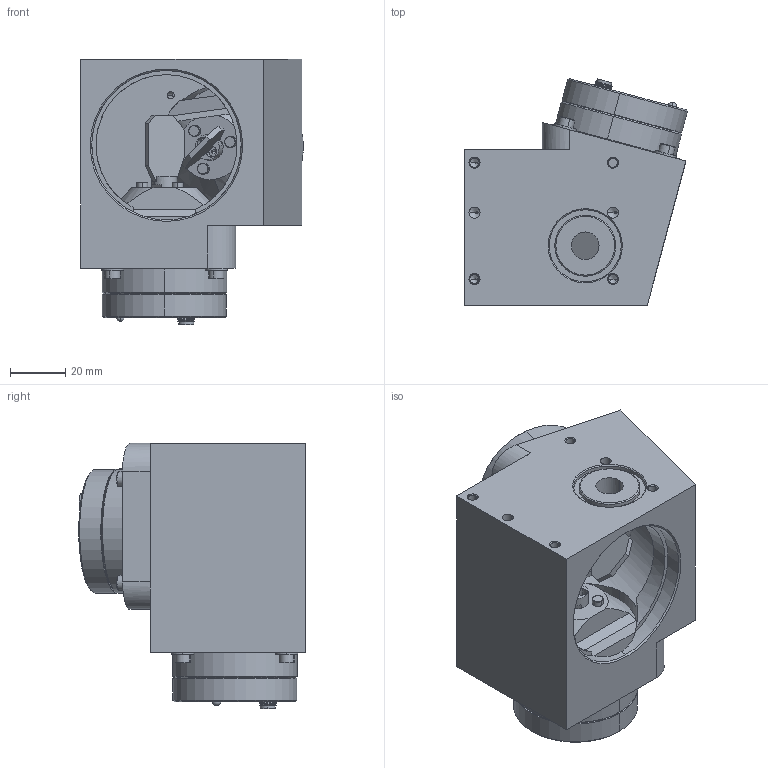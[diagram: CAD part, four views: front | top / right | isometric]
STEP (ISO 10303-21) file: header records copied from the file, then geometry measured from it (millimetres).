
FILE_DESCRIPTION (( 'STEP AP214' ), '1' );
FILE_NAME ('2D_MSA_A10mini.STEP', '2019-06-06T09:50:28', ( '' ), ( '' ), 'SwSTEP 2.0', 'SolidWorks 2011', '' );
FILE_SCHEMA (( 'AUTOMOTIVE_DESIGN' ));
Length unit declared in the file: millimetre
Products named in the file (11): socket head cap screw_iso_ISO 4762 M3 x 8 --- 8N; plain washer 10673 type snl_iso_ISO 10673-3.2-N; RTAY_A10; A10_MirrorY; RTAX_A10; socket head cap screw_iso_ISO 4762 M2 x 5 --- 5N; A10_MirrorX; Scanner_Draw06_4; Scanner_Solid; rhothor_motorblokmini_A10_2; 2D_MSA_A10mini
Assembly tree (29 placements, depth 3):
  2D_MSA_A10mini
    socket head cap screw_iso_ISO 4762 M3 x 8 --- 8N  x8
    RTAY_A10
      socket head cap screw_iso_ISO 4762 M2 x 5 --- 5N  x2
      A10_MirrorY
      Scanner_Solid
      Scanner_Draw06_4
    RTAX_A10
      Scanner_Draw06_4
      A10_MirrorX
      socket head cap screw_iso_ISO 4762 M2 x 5 --- 5N  x2
      Scanner_Solid
    rhothor_motorblokmini_A10_2
    plain washer 10673 type snl_iso_ISO 10673-3.2-N  x8
Bounding box: 80.46 x 81.84 x 95.8 mm (x, y, z)
Volume: 260077.7 mm3; surface area: 62827.6 mm2
Topology: 27 solids, 27 shells, 778 faces, 1736 edges, 1029 vertices
Faces by surface type: plane 311, cylinder 219, cone 184, torus 64
Entity records: 11480 total; most frequent: CARTESIAN_POINT 1926, DIRECTION 1786, ORIENTED_EDGE 1492, EDGE_CURVE 746, AXIS2_PLACEMENT_3D 709, VERTEX_POINT 459, EDGE_LOOP 381, VECTOR 368
